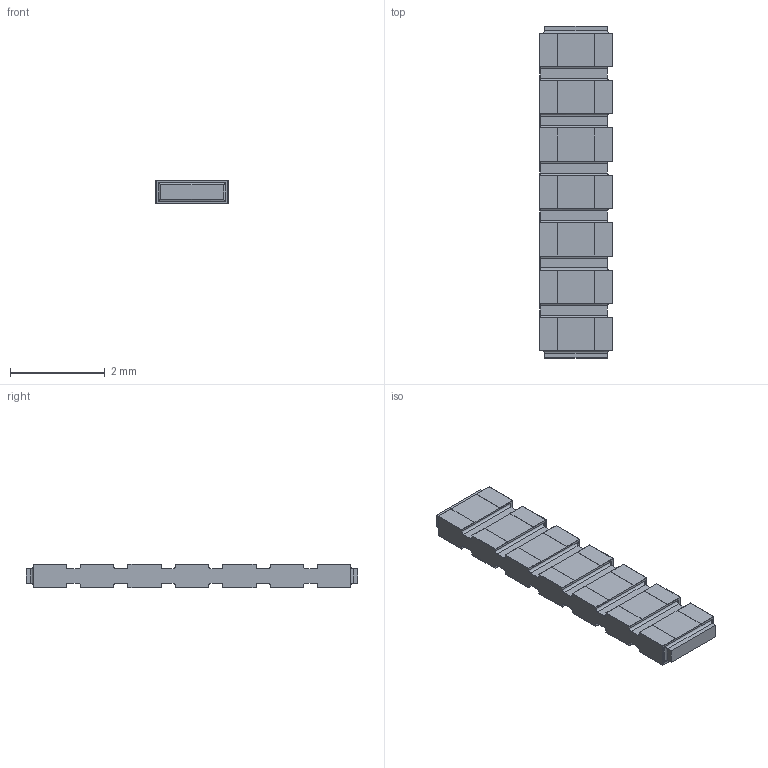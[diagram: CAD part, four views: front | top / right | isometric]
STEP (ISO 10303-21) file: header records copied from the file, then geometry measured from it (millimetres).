
FILE_DESCRIPTION(/* description */ (''),/* implementation_level */ '2;1');
FILE_NAME(/* name */ 'S:\DOCUMENT\AUTOCAD\3D_Modèles\10_3D-pour-VISHAY-COM\PRA\PRA100\PRA100-C2_à_C8\20_STEP\PRA100C7_B-or-N-or-G.stp',/* time_stamp */ '2017-12-18T09:21:49+01:00',/* author */ ('dparmentier'),/* organization */ ('unknown'),/* preprocessor_version */ 'ST-DEVELOPER v17',/* originating_system */ 'Autodesk Inventor 2018',/* authorisation */ '');
FILE_SCHEMA (('AUTOMOTIVE_DESIGN { 1 0 10303 214 3 1 1 }'));
Length unit declared in the file: millimetre
Products named in the file (1): PRA100C7_B-or-N-or-G
Bounding box: 1.52 x 7 x 0.5 mm (x, y, z)
Volume: 4.6 mm3; surface area: 57 mm2
Topology: 9 solids, 9 shells, 284 faces, 760 edges, 496 vertices
Faces by surface type: plane 216, cylinder 68
Entity records: 8777 total; most frequent: CARTESIAN_POINT 1541, ORIENTED_EDGE 1520, DIRECTION 1434, EDGE_CURVE 760, LINE 656, VECTOR 656, VERTEX_POINT 496, AXIS2_PLACEMENT_3D 389
